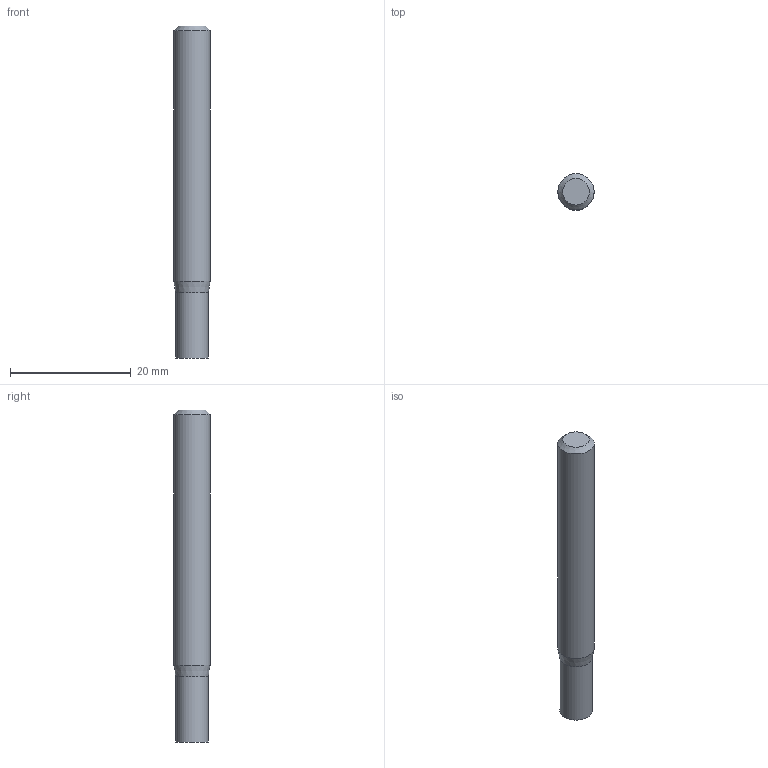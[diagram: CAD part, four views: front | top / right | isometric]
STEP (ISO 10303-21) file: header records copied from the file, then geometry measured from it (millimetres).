
FILE_DESCRIPTION((''),'2;1');
FILE_NAME('C:\Users\nsx150\AppData\Local\Temp\Mastercam 2021\98T1Q6BTT1\TEMP.step','2021-10-21T14:48:52',(''),(''),'STEP Write','Mastercam 2021 ... CNC Software, Inc.','');
FILE_SCHEMA(('AUTOMOTIVE_DESIGN'));
Length unit declared in the file: millimetre
Products named in the file (1): None
Bounding box: 6 x 6 x 55 mm (x, y, z)
Volume: 1486.4 mm3; surface area: 1102.3 mm2
Topology: 2 solids, 2 shells, 8 faces, 10 edges, 6 vertices
Faces by surface type: plane 4, cylinder 2, cone 2
Full cylindrical faces by diameter (mm): 5.4 x1, 6 x1
Entity records: 190 total; most frequent: DIRECTION 32, CARTESIAN_POINT 22, AXIS2_PLACEMENT_3D 16, ORIENTED_EDGE 12, EDGE_LOOP 12, STYLED_ITEM 11, ADVANCED_FACE 8, VERTEX_POINT 6
